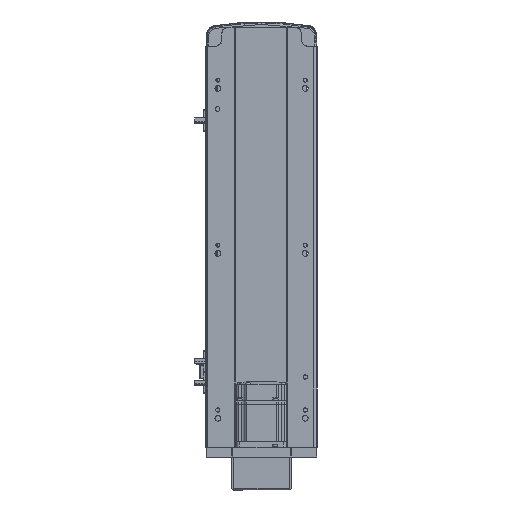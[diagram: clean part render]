
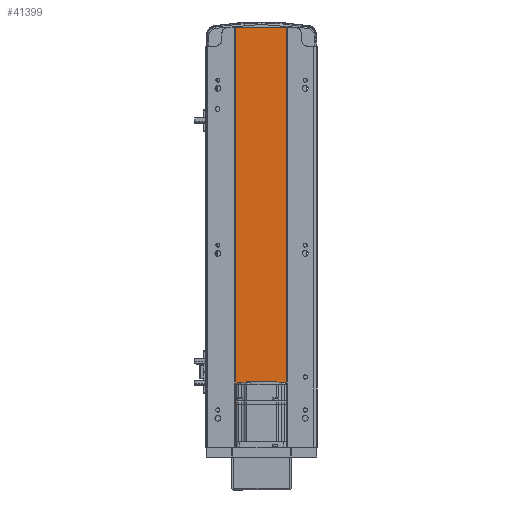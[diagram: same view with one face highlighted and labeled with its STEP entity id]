
A CAD part, front view. The second image highlights one B-rep face of the part: STEP entity #41399.
In plain terms, the highlighted planar face has unit normal (0, -1, 0).
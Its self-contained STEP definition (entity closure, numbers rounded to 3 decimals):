
#2268 = EDGE_CURVE ( 'NONE', #30029, #25866, #54983, .T. ) ;
#3708 = CARTESIAN_POINT ( 'NONE',  ( 30., 1., 0. ) ) ;
#7056 = FACE_OUTER_BOUND ( 'NONE', #20915, .T. ) ;
#11695 = AXIS2_PLACEMENT_3D ( 'NONE', #38218, #29262, #38011 ) ;
#11946 = CARTESIAN_POINT ( 'NONE',  ( -32., 1., 0. ) ) ;
#13933 = VERTEX_POINT ( 'NONE', #55846 ) ;
#16960 = EDGE_CURVE ( 'NONE', #30029, #13933, #24693, .T. ) ;
#19061 = CARTESIAN_POINT ( 'NONE',  ( -32., 1., 509. ) ) ;
#20599 = ORIENTED_EDGE ( 'NONE', *, *, #23454, .F. ) ;
#20915 = EDGE_LOOP ( 'NONE', ( #25291, #20599, #49551, #26951 ) ) ;
#21359 = CARTESIAN_POINT ( 'NONE',  ( -32., 1., 509. ) ) ;
#22322 = VECTOR ( 'NONE', #27313, 1000. ) ;
#23454 = EDGE_CURVE ( 'NONE', #25866, #53183, #49602, .T. ) ;
#24693 = LINE ( 'NONE', #19061, #37003 ) ;
#25291 = ORIENTED_EDGE ( 'NONE', *, *, #54463, .T. ) ;
#25866 = VERTEX_POINT ( 'NONE', #27384 ) ;
#26951 = ORIENTED_EDGE ( 'NONE', *, *, #16960, .T. ) ;
#27155 = LINE ( 'NONE', #11946, #32650 ) ;
#27313 = DIRECTION ( 'NONE',  ( 0., 0., -1. ) ) ;
#27384 = CARTESIAN_POINT ( 'NONE',  ( 30., 1., 509. ) ) ;
#29067 = PLANE ( 'NONE',  #11695 ) ;
#29262 = DIRECTION ( 'NONE',  ( 0., 1., 0. ) ) ;
#30029 = VERTEX_POINT ( 'NONE', #51740 ) ;
#32650 = VECTOR ( 'NONE', #38664, 1000. ) ;
#34536 = VECTOR ( 'NONE', #38910, 1000. ) ;
#35881 = CARTESIAN_POINT ( 'NONE',  ( 30., 1., 509. ) ) ;
#37003 = VECTOR ( 'NONE', #40460, 1000. ) ;
#38011 = DIRECTION ( 'NONE',  ( -1., 0., 0. ) ) ;
#38218 = CARTESIAN_POINT ( 'NONE',  ( -32., 1., 509. ) ) ;
#38664 = DIRECTION ( 'NONE',  ( 1., 0., 0. ) ) ;
#38910 = DIRECTION ( 'NONE',  ( 1., 0., 0. ) ) ;
#40460 = DIRECTION ( 'NONE',  ( 0., 0., -1. ) ) ;
#41399 = ADVANCED_FACE ( 'NONE', ( #7056 ), #29067, .F. ) ;
#49551 = ORIENTED_EDGE ( 'NONE', *, *, #2268, .F. ) ;
#49602 = LINE ( 'NONE', #35881, #22322 ) ;
#51740 = CARTESIAN_POINT ( 'NONE',  ( -32., 1., 509. ) ) ;
#53183 = VERTEX_POINT ( 'NONE', #3708 ) ;
#54463 = EDGE_CURVE ( 'NONE', #13933, #53183, #27155, .T. ) ;
#54983 = LINE ( 'NONE', #21359, #34536 ) ;
#55846 = CARTESIAN_POINT ( 'NONE',  ( -32., 1., 0. ) ) ;
